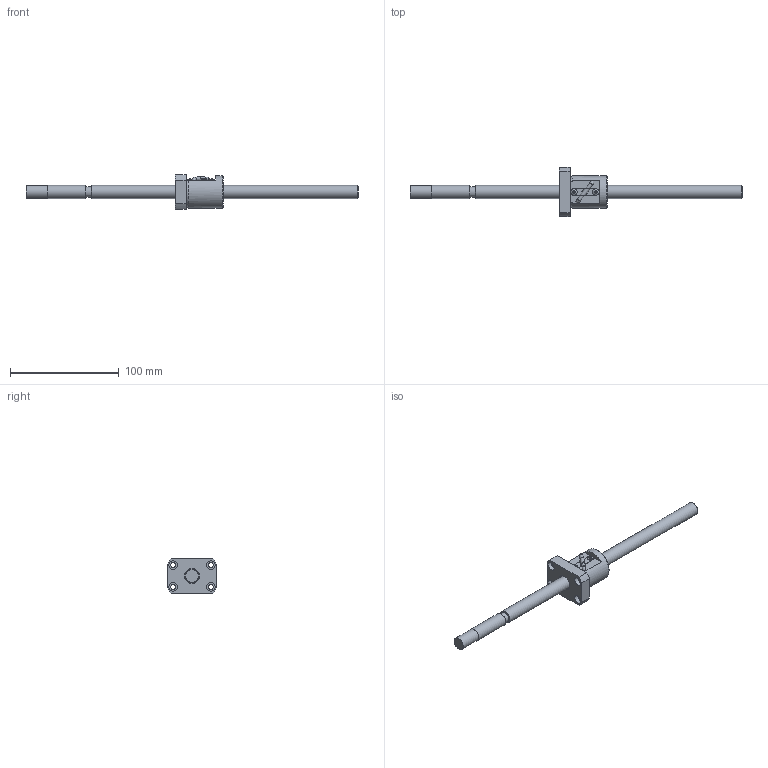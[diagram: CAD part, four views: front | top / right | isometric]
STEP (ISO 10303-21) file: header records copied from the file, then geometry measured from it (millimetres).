
FILE_DESCRIPTION((''),'2;1');
FILE_NAME('D:\製品 (図面)\カタログ用3D\ネジ関連\STEP形式\KBS(C)\KBS(C)1205-305.stp','2010-06-02T09:19:26',('Tsuchiya'),(''),'Autodesk Inventor 10','Autodesk Inventor 10','');
FILE_SCHEMA(('AUTOMOTIVE_DESIGN { 1 0 10303 214 1 1 1 1 }'));
Length unit declared in the file: millimetre
Products named in the file (3): KBS(C)1205-305; KBS(C)1205-3051; KBS(C)1205-3052
Assembly tree (2 placements, depth 2):
  KBS(C)1205-305
    KBS(C)1205-3051
    KBS(C)1205-3052
Bounding box: 305 x 45 x 32 mm (x, y, z)
Volume: 64102.6 mm3; surface area: 21795.5 mm2
Topology: 2 solids, 2 shells, 101 faces, 255 edges, 168 vertices
Faces by surface type: plane 42, cylinder 34, bspline 20, cone 3, torus 2
Full cylindrical faces by diameter (mm): 3.2 x1, 4.5 x4, 5.6 x1, 8 x4, 9.5 x1, 11.7 x1, 12 x3, 14 x2, 30 x1
Entity records: 3267 total; most frequent: CARTESIAN_POINT 930, ORIENTED_EDGE 444, DIRECTION 440, EDGE_CURVE 222, AXIS2_PLACEMENT_3D 164, VERTEX_POINT 162, EDGE_LOOP 154, VECTOR 112
